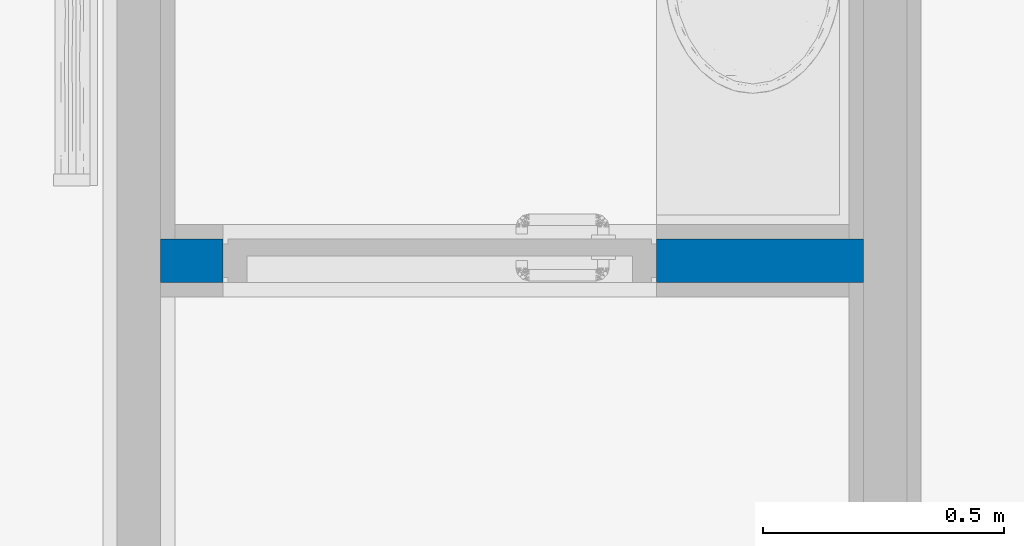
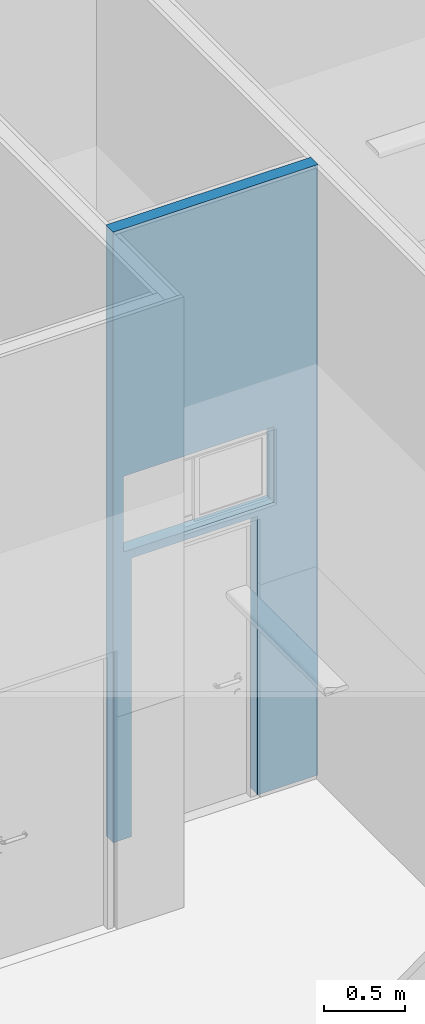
# One storey, part 22 of 155: 1 wall, 2 openings.
"""IFC2X3 building model written with IfcOpenShell, lengths in metres."""

from ifc_helpers import new_model, entity, si_unit, converted_unit, derived_unit, direction, frame, frame_2d, origin, place, context, subcontext, project, spatial, rectangle, extrude, material, layer, layer_set, layer_usage, type_object, element, save


model = new_model("IFC2X3")

# Units and contexts
model_context = context("Model", 3, precision=1e-05, world=origin(), true_north=direction((6.12303176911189e-17, 1.0)))
body_context = subcontext(model_context, "Body", "Model", "MODEL_VIEW")
ifc_project = project(units=[si_unit("LENGTHUNIT", "METRE"), si_unit("AREAUNIT", "SQUARE_METRE"), si_unit("VOLUMEUNIT", "CUBIC_METRE"), converted_unit("PLANEANGLEUNIT", "DEGREE", entity("IfcRatioMeasure", 0.0174532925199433), si_unit("PLANEANGLEUNIT", "RADIAN"), dimensions=[0, 0, 0, 0, 0, 0, 0]), si_unit("MASSUNIT", "GRAM", prefix="KILO"), derived_unit("MASSDENSITYUNIT", [(si_unit("MASSUNIT", "GRAM", prefix="KILO"), 1), (si_unit("LENGTHUNIT", "METRE"), -3)]), si_unit("TIMEUNIT", "SECOND"), si_unit("FREQUENCYUNIT", "HERTZ"), si_unit("THERMODYNAMICTEMPERATUREUNIT", "DEGREE_CELSIUS"), derived_unit("THERMALTRANSMITTANCEUNIT", [(si_unit("MASSUNIT", "GRAM", prefix="KILO"), 1), (si_unit("THERMODYNAMICTEMPERATUREUNIT", "KELVIN"), -1), (si_unit("TIMEUNIT", "SECOND"), -3)]), derived_unit("VOLUMETRICFLOWRATEUNIT", [(si_unit("LENGTHUNIT", "METRE"), 3), (si_unit("TIMEUNIT", "SECOND"), -1)]), si_unit("ELECTRICCURRENTUNIT", "AMPERE"), si_unit("ELECTRICVOLTAGEUNIT", "VOLT"), si_unit("POWERUNIT", "WATT"), si_unit("FORCEUNIT", "NEWTON", prefix="KILO"), si_unit("ILLUMINANCEUNIT", "LUX"), si_unit("LUMINOUSFLUXUNIT", "LUMEN"), si_unit("LUMINOUSINTENSITYUNIT", "CANDELA"), derived_unit("USERDEFINED", [(si_unit("MASSUNIT", "GRAM", prefix="KILO"), -1), (si_unit("LENGTHUNIT", "METRE"), -2), (si_unit("TIMEUNIT", "SECOND"), 3), (si_unit("LUMINOUSFLUXUNIT", "LUMEN"), 1)]), derived_unit("LINEARVELOCITYUNIT", [(si_unit("LENGTHUNIT", "METRE"), 1), (si_unit("TIMEUNIT", "SECOND"), -1)]), si_unit("PRESSUREUNIT", "PASCAL"), derived_unit("USERDEFINED", [(si_unit("LENGTHUNIT", "METRE"), -2), (si_unit("MASSUNIT", "GRAM", prefix="KILO"), 1), (si_unit("TIMEUNIT", "SECOND"), -2)])], contexts=[model_context])

# Site, building, storey
site_placement = place(None, frame((26.9889013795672, -17.5624287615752, 0.0)))
site = spatial("IfcSite", under=ifc_project, at=site_placement, Name="Default", CompositionType="ELEMENT")
building_placement = place(site_placement, origin())
building = spatial("IfcBuilding", under=site, at=building_placement, Name="C. C. L. Monsenhor Antônio Sampaio", CompositionType="ELEMENT")
storey_placement = place(building_placement, frame((0.0, 0.0, 1.19999999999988)))
storey = spatial("IfcBuildingStorey", under=building, at=storey_placement, Name="Nível 1.2", CompositionType="ELEMENT", Elevation=1.19999999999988)

# Wall, openings
ifc_material = material(Name="ALVENARIA")
ifc_layer = layer(ifc_material, 0.09)
ifc_layer_set = layer_set([ifc_layer], Name="Parede básica:ENucleo parede 15cm")
ifc_layer_usage = layer_usage(ifc_layer_set, "AXIS2", "POSITIVE", -0.045)
wall_type = type_object("IfcWallType", Name="Parede básica:ENucleo parede 15cm", PredefinedType="STANDARD", material=ifc_layer_set)
wall_placement = place(storey_placement, frame((2.29943400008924, -31.0880663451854, 0.0)))
wall = element("IfcWallStandardCase", 1, at=wall_placement, inside=storey, type_object=wall_type, material=ifc_layer_usage, Name="Parede básica:ENucleo parede 15cm", ObjectType="Parede básica:ENucleo parede 15cm", context=body_context, shape_type="SweptSolid", body=[
    extrude(rectangle(XDim=1.46001370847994, YDim=0.0899999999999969, at=frame_2d((0.730006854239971, 0.0), x_axis=(-1.0, 0.0))), origin(), (0.0, 0.0, 1.0), 4.60000000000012),
])
opening_1_placement = place(wall_placement, frame((0.129999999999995, -0.0450000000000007, 0.0)))
element("IfcOpeningElement", 2, at=opening_1_placement, cuts=wall, Name="Porta levantamento:90 x 211 AZUL:1", ObjectType="Opening", context=body_context, shape_type="SweptSolid", body=[
    extrude(rectangle(XDim=2.09999999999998, YDim=0.9, at=frame_2d((1.04999999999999, 0.45), x_axis=(1.0, 0.0))), frame((0.0, 0.0, 0.0), z_axis=(0.0, 1.0, 0.0), x_axis=(0.0, 0.0, 1.0)), (0.0, 0.0, 1.0), 0.09),
])
opening_2_placement = place(wall_placement, frame((0.0750068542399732, -0.0449999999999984, 2.165)))
element("IfcOpeningElement", 3, at=opening_2_placement, cuts=wall, Name="Janela 100x50:100 x 51.:1", ObjectType="Opening", context=body_context, shape_type="SweptSolid", body=[
    extrude(rectangle(XDim=0.570000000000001, YDim=1.07, at=frame_2d((0.285000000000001, 0.534999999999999), x_axis=(1.0, 0.0))), frame((0.0, 0.0, 0.0), z_axis=(0.0, 1.0, 0.0), x_axis=(0.0, 0.0, 1.0)), (0.0, 0.0, 1.0), 0.09),
])

save(model, "model.ifc")
